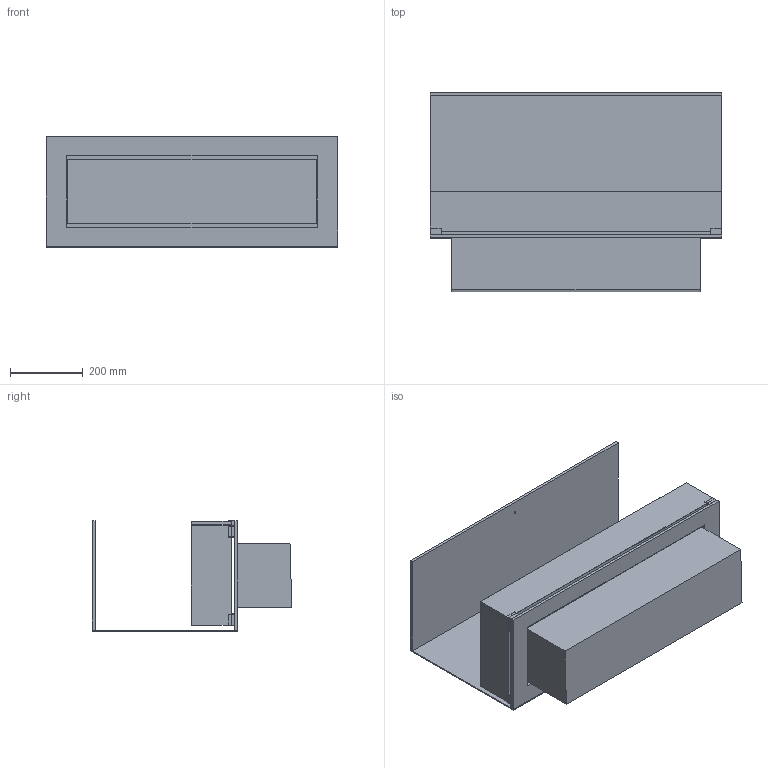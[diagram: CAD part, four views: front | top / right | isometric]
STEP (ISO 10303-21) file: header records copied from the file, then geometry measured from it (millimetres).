
FILE_DESCRIPTION (( 'STEP AP203' ), '1' );
FILE_NAME ('Montreal open to front and 2 sides 800 F6.STEP', '2024-03-22T10:25:41', ( '' ), ( '' ), 'SwSTEP 2.0', 'SolidWorks 2023', '' );
FILE_SCHEMA (( 'CONFIG_CONTROL_DESIGN' ));
Length unit declared in the file: millimetre
Products named in the file (9): 3mm alu Bag - P&G -1120SIShowroom -look book; Montreal open to front and 2 sides 800 F6; Part2^P&G -1120SI Montreal Single AUTOShowroom -look book; Part4^P&G -1120SI Montreal Single AUTOShowroom -look book; 8mm alu Bund - P&G -1120SIShowroom -look book; Denver F6; Part3^P&G -1120SI Montreal Single AUTOShowroom -look book; Glas holder flad med sider 10mm; 8mm alu Top - P&G -1120SIShowroom -look book
Assembly tree (14 placements, depth 2):
  Montreal open to front and 2 sides 800 F6
    8mm alu Top - P&G -1120SIShowroom -look book
    8mm alu Bund - P&G -1120SIShowroom -look book
    3mm alu Bag - P&G -1120SIShowroom -look book
    Glas holder flad med sider 10mm  x7
    Part2^P&G -1120SI Montreal Single AUTOShowroom -look book  x2
    Part4^P&G -1120SI Montreal Single AUTOShowroom -look book
    Denver F6
  Part3^P&G -1120SI Montreal Single AUTOShowroom -look book
Bounding box: 800 x 548 x 303 mm (x, y, z)
Volume: 24333557.6 mm3; surface area: 2571681.8 mm2
Topology: 18 solids, 18 shells, 242 faces, 529 edges, 330 vertices
Faces by surface type: plane 216, cylinder 26
Entity records: 4821 total; most frequent: CARTESIAN_POINT 642, DIRECTION 639, ORIENTED_EDGE 602, EDGE_CURVE 301, LINE 273, VECTOR 273, VERTEX_POINT 186, AXIS2_PLACEMENT_3D 183
